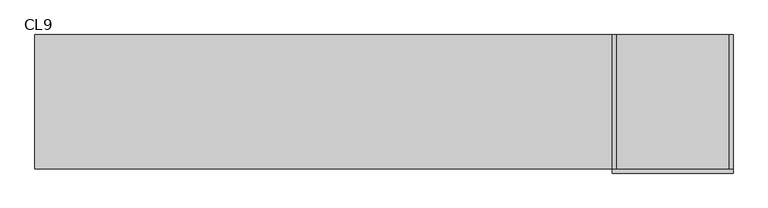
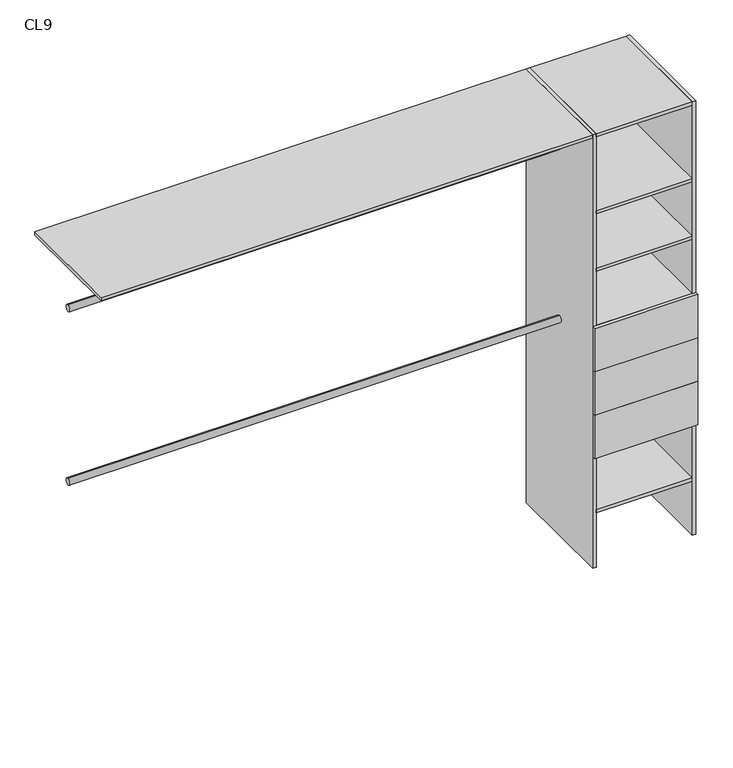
"""IFC4 building model written with IfcOpenShell, lengths in millimetres: furniture geometry, Closet 1estantes-1tubos_sin laterales : CL9."""

from ifc_helpers import new_model, si_unit, point, frame, frame_2d, origin, origin_with_axes, place, context, project, spatial, polyline, circle_curve, trimmed, segment, composite_curve, outline, extrude, source, transform, mapped, element, save


def cl9_301ed559(model_context):
    return source(origin(), model_context, "Body", "SweptSolid", [
        extrude(outline(polyline([(225.0, 100.0), (210.0, 100.0), (210.0, 600.0), (225.0, 600.0), (225.0, 100.0)])), origin_with_axes(), (0.0, 0.0, 1.0), 2000.0),
        extrude(outline(polyline([(-210.0, 100.0), (-225.0, 100.0), (-225.0, 600.0), (-210.0, 600.0), (-210.0, 100.0)])), origin_with_axes(), (0.0, 0.0, 1.0), 2000.0),
        extrude(outline(polyline([(225.0, 100.0), (225.0, 85.0), (-225.0, 85.0), (-225.0, 100.0), (225.0, 100.0)])), frame((0.0, 0.0, 915.0), z_axis=(0.0, 0.0, 1.0), x_axis=(1.0, 0.0, 0.0)), (0.0, 0.0, 1.0), 200.0),
        extrude(outline(polyline([(225.0, 100.0), (225.0, 85.0), (-225.0, 85.0), (-225.0, 100.0), (225.0, 100.0)])), frame((0.0, 0.0, 715.0), z_axis=(0.0, 0.0, 1.0), x_axis=(1.0, 0.0, 0.0)), (0.0, 0.0, 1.0), 200.0),
        extrude(outline(polyline([(225.0, 100.0), (225.0, 85.0), (-225.0, 85.0), (-225.0, 100.0), (225.0, 100.0)])), frame((0.0, 0.0, 515.0), z_axis=(0.0, 0.0, 1.0), x_axis=(1.0, 0.0, 0.0)), (0.0, 0.0, 1.0), 200.0),
        extrude(outline(polyline([(210.0, 100.0), (-210.0, 100.0), (-210.0, 600.0), (210.0, 600.0), (210.0, 100.0)])), frame((0.0, 0.0, 1100.0), z_axis=(0.0, 0.0, 1.0), x_axis=(1.0, 0.0, 0.0)), (0.0, 0.0, 1.0), 15.0),
        extrude(outline(composite_curve([segment(trimmed(circle_curve(frame_2d((350.0, 1000.0)), 15.0), [point((350.0, 1015.0))], [point((350.0, 985.0))], False, "CARTESIAN"), True, "CONTINUOUS"), segment(trimmed(circle_curve(frame_2d((350.0, 1000.0)), 15.0), [point((350.0, 985.0))], [point((350.0, 1015.0))], False, "CARTESIAN"), True, "CONTINUOUS")], self_intersect=False)), frame((-2370.0, 0.0, 0.0), z_axis=(1.0, 0.0, 0.0), x_axis=(0.0, 1.0, 0.0)), (0.0, 0.0, 1.0), 2145.0),
        extrude(outline(composite_curve([segment(trimmed(circle_curve(frame_2d((350.0, 1800.0)), 15.0), [point((350.0, 1815.0))], [point((350.0, 1785.0))], False, "CARTESIAN"), True, "CONTINUOUS"), segment(trimmed(circle_curve(frame_2d((350.0, 1800.0)), 15.0), [point((350.0, 1785.0))], [point((350.0, 1815.0))], False, "CARTESIAN"), True, "CONTINUOUS")], self_intersect=False)), frame((-2370.0, 0.0, 0.0), z_axis=(1.0, 0.0, 0.0), x_axis=(0.0, 1.0, 0.0)), (0.0, 0.0, 1.0), 2145.0),
        extrude(outline(polyline([(210.0, 100.0), (-210.0, 100.0), (-210.0, 600.0), (210.0, 600.0), (210.0, 100.0)])), frame((0.0, 0.0, 250.0), z_axis=(0.0, 0.0, 1.0), x_axis=(1.0, 0.0, 0.0)), (0.0, 0.0, 1.0), 15.0),
        extrude(outline(polyline([(210.0, 100.0), (-210.0, 100.0), (-210.0, 600.0), (210.0, 600.0), (210.0, 100.0)])), frame((0.0, 0.0, 515.0), z_axis=(0.0, 0.0, 1.0), x_axis=(1.0, 0.0, 0.0)), (0.0, 0.0, 1.0), 15.0),
        extrude(outline(polyline([(210.0, 100.0), (-210.0, 100.0), (-210.0, 600.0), (210.0, 600.0), (210.0, 100.0)])), frame((0.0, 0.0, 1365.0), z_axis=(0.0, 0.0, 1.0), x_axis=(1.0, 0.0, 0.0)), (0.0, 0.0, 1.0), 15.0),
        extrude(outline(polyline([(210.0, 100.0), (-210.0, 100.0), (-210.0, 600.0), (210.0, 600.0), (210.0, 100.0)])), frame((0.0, 0.0, 1630.0), z_axis=(0.0, 0.0, 1.0), x_axis=(1.0, 0.0, 0.0)), (0.0, 0.0, 1.0), 15.0),
        extrude(outline(polyline([(-210.0, 100.0), (-2370.0, 100.0), (-2370.0, 600.0), (-210.0, 600.0), (-210.0, 100.0)])), frame((0.0, 0.0, 1985.0), z_axis=(0.0, 0.0, 1.0), x_axis=(1.0, 0.0, 0.0)), (0.0, 0.0, 1.0), 15.0),
        extrude(outline(polyline([(210.0, 100.0), (-210.0, 100.0), (-210.0, 600.0), (210.0, 600.0), (210.0, 100.0)])), frame((0.0, 0.0, 1985.0), z_axis=(0.0, 0.0, 1.0), x_axis=(1.0, 0.0, 0.0)), (0.0, 0.0, 1.0), 15.0),
    ])


if __name__ == "__main__":
    model = new_model("IFC4")
    model_context = context("Model", 3, world=origin())
    ifc_project = project(units=[si_unit("LENGTHUNIT", "METRE", prefix="MILLI")], contexts=[model_context])
    site = spatial("IfcSite", under=ifc_project)
    building = spatial("IfcBuilding", under=site)
    placement = place(None, origin())
    cl9_shape = cl9_301ed559(model_context)
    element("IfcFurniture", 1, ObjectType="Closet 1estantes-1tubos_sin laterales : CL9", at=placement, inside=building, context=model_context, shape_type="MappedRepresentation", body=[
        mapped(cl9_shape, transform((0.0, 0.0, 0.0), x_axis=(1.0, 0.0, 0.0), y_axis=(0.0, 1.0, 0.0), z_axis=(0.0, 0.0, 1.0))),
    ])
    save(model, "model.ifc")
